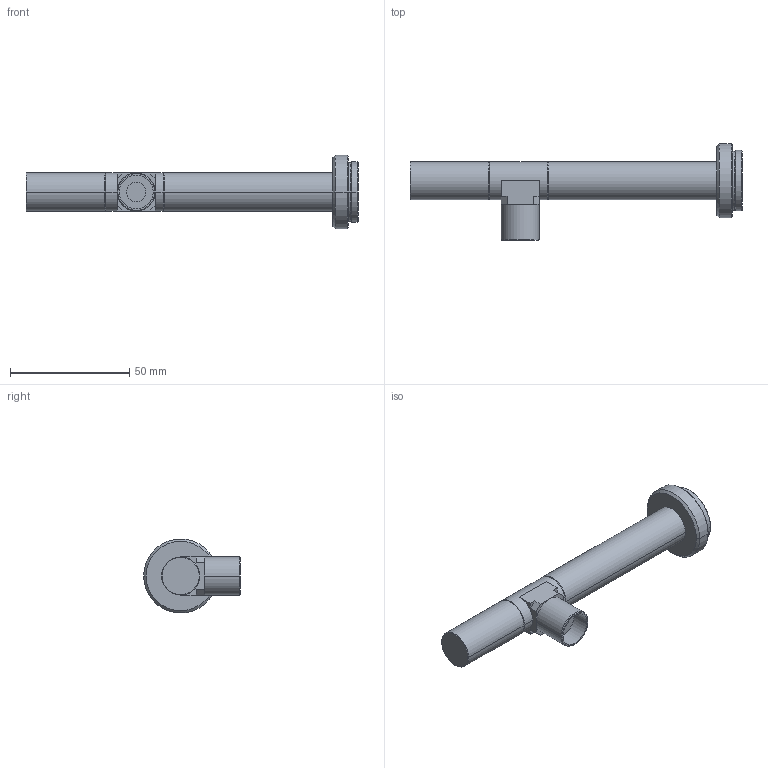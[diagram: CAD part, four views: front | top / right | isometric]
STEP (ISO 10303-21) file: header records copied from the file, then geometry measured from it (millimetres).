
FILE_DESCRIPTION (( 'STEP AP214' ), '1' );
FILE_NAME ('VS-TC8-110CO-LD.STEP', '2019-06-27T05:19:04', ( '' ), ( '' ), 'SwSTEP 2.0', 'SolidWorks 2018', '' );
FILE_SCHEMA (( 'AUTOMOTIVE_DESIGN' ));
Length unit declared in the file: millimetre
Products named in the file (1): VS-TC8-110CO-LD
Bounding box: 139.1 x 40.5 x 31 mm (x, y, z)
Volume: 35028.3 mm3; surface area: 10413.8 mm2
Topology: 1 solids, 1 shells, 61 faces, 133 edges, 78 vertices
Faces by surface type: plane 23, cone 20, cylinder 18
Entity records: 1681 total; most frequent: DIRECTION 313, CARTESIAN_POINT 273, ORIENTED_EDGE 266, EDGE_CURVE 133, AXIS2_PLACEMENT_3D 118, VERTEX_POINT 78, LINE 77, VECTOR 77
